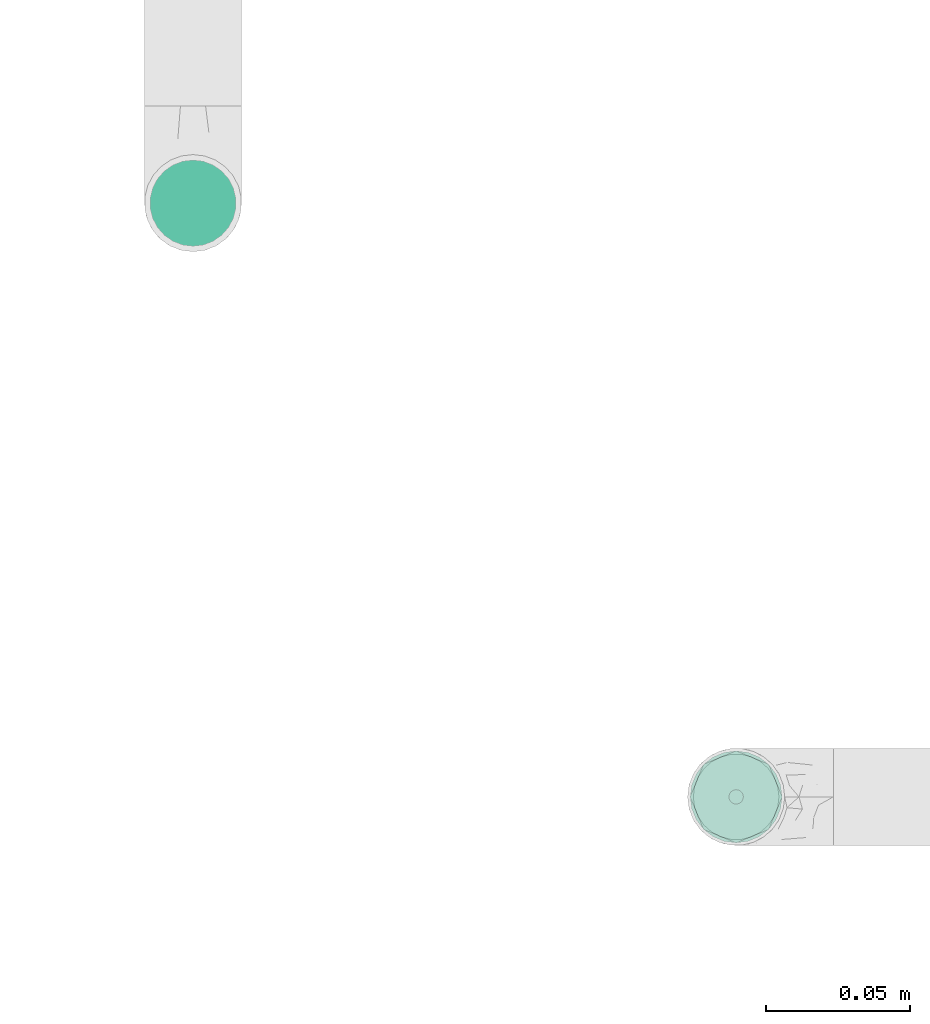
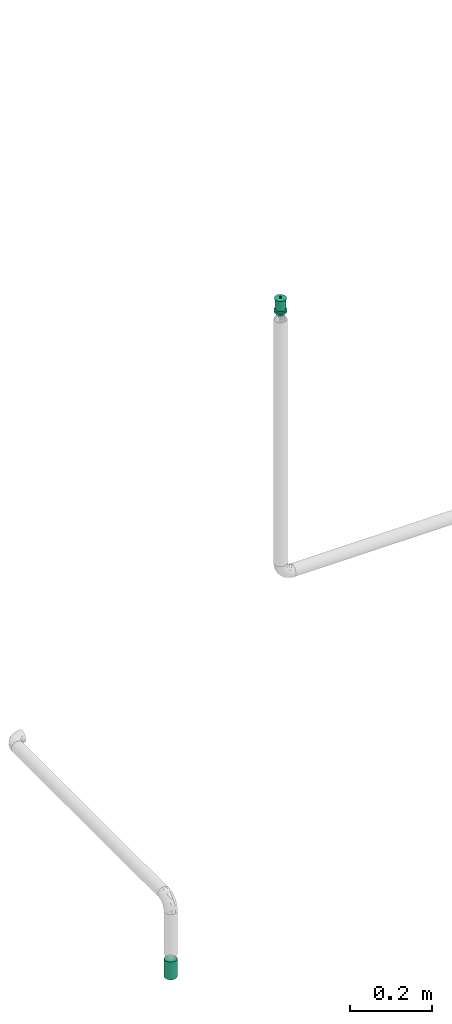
# One storey, part 24 of 94: 2 flow terminals.
"""IFC2X3 building model written with IfcOpenShell, lengths in millimetres."""

from ifc_helpers import new_model, entity, si_unit, converted_unit, derived_unit, direction, frame, origin_with_axes, place, context, subcontext, project, spatial, open_shell, surface_model, source, transform, mapped, type_object, element, save


model = new_model("IFC2X3")

# Units and contexts
model_context = context("Model", 3, precision=0.01, world=frame((0.0, 4.29681676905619e-09, 0.0)), true_north=direction((4.01073788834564e-13, 1.0)))
plan_context = context("Plan", 3, precision=0.01, world=frame((0.0, 4.29681676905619e-09, 0.0)), true_north=direction((4.01073788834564e-13, 1.0)))
body_context = subcontext(model_context, "Body", "Model", "MODEL_VIEW")
ifc_project = project(units=[converted_unit("PLANEANGLEUNIT", "DEGREE", entity("IfcPositiveLengthMeasure", 0.0174532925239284), si_unit("PLANEANGLEUNIT", "RADIAN"), dimensions=[0, 0, 0, 0, 0, 0, 0]), si_unit("AREAUNIT", "SQUARE_METRE"), si_unit("LENGTHUNIT", "METRE", prefix="MILLI"), si_unit("MASSUNIT", "GRAM", prefix="KILO"), si_unit("POWERUNIT", "WATT"), si_unit("PRESSUREUNIT", "PASCAL", prefix="KILO"), si_unit("FORCEUNIT", "NEWTON", prefix="KILO"), si_unit("ELECTRICVOLTAGEUNIT", "VOLT"), si_unit("ELECTRICCURRENTUNIT", "AMPERE"), si_unit("THERMODYNAMICTEMPERATUREUNIT", "DEGREE_CELSIUS"), si_unit("TIMEUNIT", "SECOND"), si_unit("VOLUMEUNIT", "CUBIC_METRE"), derived_unit("LINEARVELOCITYUNIT", [(si_unit("LENGTHUNIT", "METRE"), 1), (si_unit("TIMEUNIT", "SECOND"), -1)]), derived_unit("VOLUMETRICFLOWRATEUNIT", [(si_unit("VOLUMEUNIT", "CUBIC_METRE"), 1), (si_unit("TIMEUNIT", "SECOND"), -1)]), derived_unit("THERMALTRANSMITTANCEUNIT", [(si_unit("POWERUNIT", "WATT"), 1), (si_unit("THERMODYNAMICTEMPERATUREUNIT", "KELVIN"), -1), (si_unit("AREAUNIT", "SQUARE_METRE"), -1)]), derived_unit("SOUNDPRESSUREUNIT", [(si_unit("PRESSUREUNIT", "PASCAL"), 1)])], contexts=[model_context, plan_context])

# Site, building, storey
site_placement = place(None, frame((0.0, -4.29681676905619e-09, 0.0), z_axis=(0.0, 0.0, 1.0), x_axis=(1.0, 0.0, 0.0)))
site = spatial("IfcSite", under=ifc_project, at=site_placement, CompositionType="ELEMENT")
building_placement = place(site_placement, frame((0.0, 4.29681676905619e-09, 0.0), z_axis=(0.0, 0.0, 1.0), x_axis=(1.0, 0.0, 0.0)))
building = spatial("IfcBuilding", under=site, at=building_placement, Name="mc-building", CompositionType="ELEMENT")
storey_placement = place(building_placement, frame((0.0, 0.0, 210900.0), z_axis=(0.0, 0.0, 1.0), x_axis=(1.0, 0.0, 0.0)))
storey = spatial("IfcBuildingStorey", under=building, at=storey_placement, Name="Nivå F", CompositionType="ELEMENT", Elevation=210900.0)

# Flow terminals
fire_suppression_terminal_type_1 = type_object("IfcFireSuppressionTerminalType", Name="68DGR-STD-STÅENDE", PredefinedType="NOTDEFINED")
shared_shape_1 = source(origin_with_axes(), body_context, "Body", "SurfaceModel", [
    surface_model("IfcShellBasedSurfaceModel", [(3.36465, -12.55704, 51.0), (6.5, -11.25833, 51.0), (9.19239, -9.19239, 51.0), (12.55704, -3.36465, 51.0), (-11.25833, -6.5, 51.0), (11.25833, -6.5, 51.0), (-13.0, 0.0, 51.0), (0.0, -13.0, 51.0), (-6.5, -11.25833, 51.0), (-3.36465, -12.55704, 51.0), (-9.19239, -9.19239, 51.0), (-12.55704, -3.36465, 51.0), (13.0, 0.0, 51.0), (12.55704, 3.36465, 51.0), (11.25833, 6.5, 51.0), (9.19239, 9.19239, 51.0), (6.5, 11.25833, 51.0), (3.36465, 12.55704, 51.0), (0.0, 13.0, 51.0), (-3.36465, 12.55704, 51.0), (-12.55704, 3.36465, 51.0), (-9.19239, 9.19239, 51.0), (-11.25833, 6.5, 51.0), (-6.5, 11.25833, 51.0), (0.0, 13.0, 21.14766), (3.36465, 12.55704, 21.14766), (6.5, 11.25833, 21.14766), (-3.36465, 12.55704, 21.14766), (9.19239, 9.19239, 21.14766), (11.25833, 6.5, 21.14766), (12.55704, 3.36465, 21.14766), (-12.55704, 3.36465, 21.14766), (-11.25833, -6.5, 21.14766), (-9.19239, 9.19239, 21.14766), (-6.5, 11.25833, 21.14766), (-11.25833, 6.5, 21.14766), (-13.0, 0.0, 21.14766), (12.55704, -3.36465, 21.14766), (9.19239, -9.19239, 21.14766), (11.25833, -6.5, 21.14766), (6.5, -11.25833, 21.14766), (3.36465, -12.55704, 21.14766), (-6.5, -11.25833, 21.14766), (-9.19239, -9.19239, 21.14766), (-12.55704, -3.36465, 21.14766), (0.0, -13.0, 21.14766), (-3.36465, -12.55704, 21.14766), (13.0, 0.0, 21.14766), (7.24444, -1.94114, 0.1), (1.94114, -7.24444, 0.1), (3.75, -6.49519, 0.1), (5.3033, -5.3033, 0.1), (-5.3033, -5.3033, 0.1), (6.49519, -3.75, 0.1), (5.3033, 5.3033, 0.1), (0.0, -7.5, 0.1), (-3.75, -6.49519, 0.1), (-1.94114, -7.24444, 0.1), (-7.24444, -1.94114, 0.1), (-6.49519, -3.75, 0.1), (-7.24444, 1.94114, 0.1), (7.5, 0.0, 0.1), (6.49519, 3.75, 0.1), (-6.49519, 3.75, 0.1), (1.94114, 7.24444, 0.1), (0.0, 7.5, 0.1), (3.75, 6.49519, 0.1), (-7.5, 0.0, 0.1), (-5.3033, 5.3033, 0.1), (-1.94114, 7.24444, 0.1), (-3.75, 6.49519, 0.1), (7.24444, 1.94114, 0.1), (1.94114, 7.24444, -0.1), (-6.49519, 3.75, -0.1), (0.0, 7.5, -0.1), (5.3033, 5.3033, -0.1), (3.75, 6.49519, -0.1), (6.49519, 3.75, -0.1), (7.24444, 1.94114, -0.1), (-1.94114, 7.24444, -0.1), (-5.3033, 5.3033, -0.1), (-3.75, 6.49519, -0.1), (-7.24444, 1.94114, -0.1), (-7.24444, -1.94114, -0.1), (-7.5, 0.0, -0.1), (7.5, 0.0, -0.1), (7.24444, -1.94114, -0.1), (-5.3033, -5.3033, -0.1), (1.94114, -7.24444, -0.1), (6.49519, -3.75, -0.1), (5.3033, -5.3033, -0.1), (3.75, -6.49519, -0.1), (-6.49519, -3.75, -0.1), (-3.75, -6.49519, -0.1), (0.0, -7.5, -0.1), (-1.94114, -7.24444, -0.1), (0.0, -2.5, 51.0), (-2.5, 0.0, 51.0), (0.0, 2.5, 51.0), (2.5, 0.0, 51.0), (0.0, -16.0, 53.0), (11.31371, -11.31371, 53.0), (-11.31371, -11.31371, 53.0), (-16.0, 0.0, 53.0), (16.0, 0.0, 53.0), (11.31371, 11.31371, 53.0), (0.0, 16.0, 53.0), (-11.31371, 11.31371, 53.0), (1.25, -2.16506, 57.0), (0.0, -2.5, 57.0), (0.64705, -2.41481, 57.0), (2.41481, -0.64705, 57.0), (1.76777, -1.76777, 57.0), (-2.41481, -0.64705, 57.0), (-2.5, 0.0, 57.0), (2.16506, -1.25, 57.0), (-1.25, -2.16506, 57.0), (-0.64705, -2.41481, 57.0), (-1.76777, -1.76777, 57.0), (-2.16506, -1.25, 57.0), (2.5, 0.0, 57.0), (2.41481, 0.64705, 57.0), (2.16506, 1.25, 57.0), (1.76777, 1.76777, 57.0), (0.64705, 2.41481, 57.0), (1.25, 2.16506, 57.0), (-1.76777, 1.76777, 57.0), (0.0, 2.5, 57.0), (-2.16506, 1.25, 57.0), (-2.41481, 0.64705, 57.0), (-0.64705, 2.41481, 57.0), (-1.25, 2.16506, 57.0), (1.25, 2.16506, 51.0), (1.76777, 1.76777, 51.0), (1.15, 1.99186, 51.0), (0.59528, 2.22163, 51.0), (0.64705, 2.41481, 51.0), (0.0, 2.3, 51.0), (1.62635, 1.62635, 51.0), (2.41481, 0.64705, 51.0), (2.3, 0.0, 51.0), (2.22163, 0.59528, 51.0), (2.16506, 1.25, 51.0), (1.99186, 1.15, 51.0), (-0.59528, 2.22163, 51.0), (-0.64705, 2.41481, 51.0), (-1.15, 1.99186, 51.0), (-1.76777, 1.76777, 51.0), (-1.25, 2.16506, 51.0), (-1.62635, 1.62635, 51.0), (-1.99186, 1.15, 51.0), (-2.16506, 1.25, 51.0), (-2.22163, 0.59528, 51.0), (-2.41481, 0.64705, 51.0), (-2.3, 0.0, 51.0), (2.41481, -0.64705, 51.0), (2.22163, -0.59528, 51.0), (1.99186, -1.15, 51.0), (2.16506, -1.25, 51.0), (1.62635, -1.62635, 51.0), (1.76777, -1.76777, 51.0), (1.25, -2.16506, 51.0), (1.15, -1.99186, 51.0), (0.59528, -2.22163, 51.0), (0.64705, -2.41481, 51.0), (0.0, -2.3, 51.0), (-2.16506, -1.25, 51.0), (-1.99186, -1.15, 51.0), (-1.76777, -1.76777, 51.0), (-1.62635, -1.62635, 51.0), (-2.41481, -0.64705, 51.0), (-2.22163, -0.59528, 51.0), (-0.59528, -2.22163, 51.0), (-0.64705, -2.41481, 51.0), (-1.15, -1.99186, 51.0), (-1.25, -2.16506, 51.0), (1.62635, -1.62635, 56.8), (1.15, -1.99186, 56.8), (0.59528, -2.22163, 56.8), (0.0, -2.3, 56.8), (2.22163, 0.59528, 56.8), (1.99186, -1.15, 56.8), (2.22163, -0.59528, 56.8), (-0.59528, -2.22163, 56.8), (-1.15, -1.99186, 56.8), (-1.62635, -1.62635, 56.8), (-1.99186, -1.15, 56.8), (-2.22163, -0.59528, 56.8), (-1.99186, 1.15, 56.8), (2.3, 0.0, 56.8), (1.62635, 1.62635, 56.8), (1.99186, 1.15, 56.8), (1.15, 1.99186, 56.8), (0.0, 2.3, 56.8), (0.59528, 2.22163, 56.8), (-2.22163, 0.59528, 56.8), (-2.3, 0.0, 56.8), (-1.15, 1.99186, 56.8), (-0.59528, 2.22163, 56.8), (-1.62635, 1.62635, 56.8), (4.1411, -15.45481, 19.0), (8.0, -13.85641, 19.0), (11.31371, -11.31371, 19.0), (-8.0, -13.85641, 19.0), (15.45481, -4.1411, 19.0), (16.0, 0.0, 19.0), (13.85641, -8.0, 19.0), (0.0, -16.0, 19.0), (-4.1411, -15.45481, 19.0), (-13.85641, -8.0, 19.0), (-11.31371, -11.31371, 19.0), (-15.45481, -4.1411, 19.0), (15.45481, 4.1411, 19.0), (13.85641, 8.0, 19.0), (11.31371, 11.31371, 19.0), (-4.1411, 15.45481, 19.0), (8.0, 13.85641, 19.0), (4.1411, 15.45481, 19.0), (0.0, 16.0, 19.0), (-13.85641, 8.0, 19.0), (-15.45481, 4.1411, 19.0), (-16.0, 0.0, 19.0), (-11.31371, 11.31371, 19.0), (-8.0, 13.85641, 19.0), (0.0, 16.0, 13.0), (4.1411, 15.45481, 13.0), (8.0, 13.85641, 13.0), (-4.1411, 15.45481, 13.0), (11.31371, 11.31371, 13.0), (13.85641, 8.0, 13.0), (15.45481, 4.1411, 13.0), (-15.45481, -4.1411, 13.0), (-11.31371, 11.31371, 13.0), (-8.0, 13.85641, 13.0), (-13.85641, 8.0, 13.0), (-15.45481, 4.1411, 13.0), (-16.0, 0.0, 13.0), (4.1411, -15.45481, 13.0), (16.0, 0.0, 13.0), (15.45481, -4.1411, 13.0), (13.85641, -8.0, 13.0), (11.31371, -11.31371, 13.0), (8.0, -13.85641, 13.0), (-8.0, -13.85641, 13.0), (-13.85641, -8.0, 13.0), (-11.31371, -11.31371, 13.0), (0.0, -16.0, 13.0), (-4.1411, -15.45481, 13.0), (7.24444, -1.94114, 13.0), (1.94114, -7.24444, 13.0), (3.75, -6.49519, 13.0), (5.3033, -5.3033, 13.0), (-5.3033, -5.3033, 13.0), (6.49519, -3.75, 13.0), (5.3033, 5.3033, 13.0), (0.0, -7.5, 13.0), (-3.75, -6.49519, 13.0), (-1.94114, -7.24444, 13.0), (-7.24444, -1.94114, 13.0), (-6.49519, -3.75, 13.0), (-7.24444, 1.94114, 13.0), (7.5, 0.0, 13.0), (6.49519, 3.75, 13.0), (-6.49519, 3.75, 13.0), (1.94114, 7.24444, 13.0), (0.0, 7.5, 13.0), (3.75, 6.49519, 13.0), (-7.5, 0.0, 13.0), (-5.3033, 5.3033, 13.0), (-1.94114, 7.24444, 13.0), (-3.75, 6.49519, 13.0), (7.24444, 1.94114, 13.0), (3.75, 6.49519, 0.0), (5.3033, 5.3033, 0.0), (3.65, 6.32199, 0.0), (1.88938, 7.05126, 0.0), (0.0, 7.3, 0.0), (1.94114, 7.24444, 0.0), (0.0, 7.5, 0.0), (5.16188, 5.16188, 0.0), (7.24444, 1.94114, 0.0), (7.3, 0.0, 0.0), (7.05126, 1.88938, 0.0), (7.5, 0.0, 0.0), (6.49519, 3.75, 0.0), (6.32199, 3.65, 0.0), (-1.88938, 7.05126, 0.0), (-1.94114, 7.24444, 0.0), (-3.65, 6.32199, 0.0), (-5.3033, 5.3033, 0.0), (-3.75, 6.49519, 0.0), (-5.16188, 5.16188, 0.0), (-6.32199, 3.65, 0.0), (-6.49519, 3.75, 0.0), (-7.05126, 1.88938, 0.0), (-7.24444, 1.94114, 0.0), (-7.3, 0.0, 0.0), (-7.5, 0.0, 0.0), (7.24444, -1.94114, 0.0), (7.05126, -1.88938, 0.0), (6.32199, -3.65, 0.0), (6.49519, -3.75, 0.0), (5.16188, -5.16188, 0.0), (5.3033, -5.3033, 0.0), (3.75, -6.49519, 0.0), (3.65, -6.32199, 0.0), (1.88938, -7.05126, 0.0), (1.94114, -7.24444, 0.0), (0.0, -7.3, 0.0), (0.0, -7.5, 0.0), (-6.49519, -3.75, 0.0), (-6.32199, -3.65, 0.0), (-5.3033, -5.3033, 0.0), (-5.16188, -5.16188, 0.0), (-7.24444, -1.94114, 0.0), (-7.05126, -1.88938, 0.0), (-1.88938, -7.05126, 0.0), (-1.94114, -7.24444, 0.0), (-3.65, -6.32199, 0.0), (-3.75, -6.49519, 0.0), (1.88938, -7.05126, 12.8), (0.0, -7.3, 12.8), (3.65, -6.32199, 12.8), (5.16188, -5.16188, 12.8), (6.32199, -3.65, 12.8), (7.05126, 1.88938, 12.8), (7.05126, -1.88938, 12.8), (-5.16188, -5.16188, 12.8), (-1.88938, -7.05126, 12.8), (-3.65, -6.32199, 12.8), (-6.32199, -3.65, 12.8), (-7.05126, -1.88938, 12.8), (0.0, 7.3, 12.8), (7.3, 0.0, 12.8), (6.32199, 3.65, 12.8), (5.16188, 5.16188, 12.8), (3.65, 6.32199, 12.8), (1.88938, 7.05126, 12.8), (-6.32199, 3.65, 12.8), (-7.05126, 1.88938, 12.8), (-7.3, 0.0, 12.8), (-3.65, 6.32199, 12.8), (-1.88938, 7.05126, 12.8), (-5.16188, 5.16188, 12.8)], [open_shell([[[0, 1, 2]], [[0, 2, 3]], [[0, 3, 4]], [[3, 2, 5]], [[6, 4, 3]], [[7, 8, 9]], [[7, 0, 8]], [[8, 4, 10]], [[0, 4, 8]], [[4, 6, 11]], [[6, 3, 12]], [[13, 14, 15]], [[6, 13, 15]], [[16, 17, 18]], [[15, 16, 19]], [[18, 19, 16]], [[20, 21, 22]], [[20, 6, 15]], [[21, 19, 23]], [[19, 21, 20]], [[15, 19, 20]], [[13, 6, 12]], [[24, 25, 26]], [[27, 24, 26]], [[28, 29, 30]], [[26, 28, 31]], [[28, 32, 31]], [[27, 33, 34]], [[33, 27, 31]], [[33, 31, 35]], [[27, 26, 31]], [[31, 32, 36]], [[32, 28, 30]], [[32, 30, 37]], [[38, 37, 39]], [[38, 40, 41]], [[38, 41, 37]], [[32, 37, 41]], [[32, 42, 43]], [[44, 36, 32]], [[42, 45, 46]], [[42, 32, 41]], [[45, 42, 41]], [[30, 47, 37]], [[4, 32, 43]], [[8, 42, 46]], [[43, 42, 10]], [[9, 46, 45]], [[36, 11, 6]], [[11, 36, 44]], [[11, 44, 4]], [[44, 32, 4]], [[43, 10, 4]], [[8, 10, 42]], [[46, 9, 8]], [[45, 7, 9]], [[0, 41, 40]], [[38, 1, 40]], [[5, 39, 37]], [[38, 39, 2]], [[3, 37, 47]], [[41, 0, 7]], [[40, 1, 0]], [[38, 2, 1]], [[39, 5, 2]], [[3, 5, 37]], [[47, 12, 3]], [[41, 7, 45]], [[30, 13, 47]], [[29, 14, 30]], [[25, 24, 17]], [[15, 29, 28]], [[30, 14, 13]], [[13, 12, 47]], [[16, 26, 17]], [[16, 15, 28]], [[26, 25, 17]], [[15, 14, 29]], [[28, 26, 16]], [[24, 18, 17]], [[19, 27, 34]], [[33, 23, 34]], [[22, 35, 31]], [[33, 35, 21]], [[20, 31, 36]], [[27, 19, 18]], [[34, 23, 19]], [[33, 21, 23]], [[35, 22, 21]], [[20, 22, 31]], [[36, 6, 20]], [[27, 18, 24]], [[48, 49, 50]], [[48, 50, 51]], [[49, 48, 52]], [[48, 51, 53]], [[54, 52, 48]], [[55, 56, 57]], [[56, 55, 52]], [[52, 58, 59]], [[52, 55, 49]], [[52, 60, 58]], [[54, 48, 61]], [[62, 54, 61]], [[54, 63, 52]], [[64, 65, 54]], [[64, 54, 66]], [[63, 54, 65]], [[63, 60, 52]], [[67, 58, 60]], [[68, 69, 70]], [[69, 68, 63]], [[69, 63, 65]], [[71, 62, 61]], [[72, 73, 74]], [[75, 72, 76]], [[75, 77, 78]], [[72, 75, 73]], [[78, 73, 75]], [[79, 80, 81]], [[80, 79, 73]], [[74, 73, 79]], [[78, 82, 73]], [[82, 83, 84]], [[82, 78, 85]], [[86, 87, 85]], [[88, 86, 89]], [[90, 91, 88]], [[90, 88, 89]], [[87, 86, 88]], [[83, 87, 92]], [[83, 85, 87]], [[93, 94, 95]], [[94, 93, 87]], [[88, 94, 87]], [[85, 83, 82]], [[83, 58, 84]], [[92, 59, 83]], [[56, 87, 93]], [[92, 87, 52]], [[57, 93, 95]], [[83, 59, 58]], [[58, 67, 84]], [[57, 56, 93]], [[52, 87, 56]], [[52, 59, 92]], [[55, 57, 95]], [[95, 94, 55]], [[88, 49, 94]], [[91, 50, 88]], [[53, 90, 89]], [[91, 90, 51]], [[48, 89, 86]], [[91, 51, 50]], [[50, 49, 88]], [[61, 48, 86]], [[53, 89, 48]], [[53, 51, 90]], [[85, 61, 86]], [[94, 49, 55]], [[78, 71, 85]], [[77, 62, 78]], [[66, 75, 76]], [[77, 75, 54]], [[64, 76, 72]], [[78, 62, 71]], [[71, 61, 85]], [[64, 66, 76]], [[54, 75, 66]], [[54, 62, 77]], [[65, 64, 72]], [[72, 74, 65]], [[79, 69, 74]], [[81, 70, 79]], [[63, 80, 73]], [[81, 80, 68]], [[60, 73, 82]], [[81, 68, 70]], [[70, 69, 79]], [[67, 60, 82]], [[63, 73, 60]], [[63, 68, 80]], [[84, 67, 82]], [[74, 69, 65]], [[96, 97, 98]], [[98, 99, 96]], [[100, 101, 102]], [[103, 102, 101]], [[101, 104, 103]], [[104, 105, 106]], [[107, 103, 106]], [[106, 103, 104]], [[99, 98, 105]], [[105, 104, 99]], [[98, 106, 105]], [[98, 107, 106]], [[107, 98, 97]], [[103, 107, 97]], [[97, 96, 102]], [[102, 103, 97]], [[96, 100, 102]], [[96, 101, 100]], [[101, 96, 99]], [[104, 101, 99]], [[108, 109, 110]], [[111, 108, 112]], [[113, 108, 114]], [[111, 112, 115]], [[108, 111, 114]], [[109, 116, 117]], [[116, 109, 118]], [[118, 113, 119]], [[118, 109, 108]], [[108, 113, 118]], [[111, 120, 114]], [[121, 122, 123]], [[114, 121, 123]], [[114, 123, 124]], [[124, 123, 125]], [[126, 124, 127]], [[124, 128, 129]], [[129, 114, 124]], [[126, 130, 131]], [[128, 124, 126]], [[130, 126, 127]], [[121, 114, 120]], [[132, 133, 134]], [[132, 134, 135]], [[136, 135, 137]], [[135, 136, 132]], [[136, 137, 98]], [[134, 133, 138]], [[139, 140, 141]], [[140, 139, 99]], [[139, 141, 142]], [[138, 142, 143]], [[142, 138, 133]], [[143, 142, 141]], [[98, 144, 145]], [[98, 137, 144]], [[145, 144, 146]], [[147, 148, 149]], [[146, 148, 145]], [[149, 148, 146]], [[150, 151, 147]], [[151, 150, 152]], [[150, 147, 149]], [[153, 152, 154]], [[152, 153, 151]], [[153, 154, 97]], [[99, 155, 156]], [[156, 155, 157]], [[157, 158, 159]], [[158, 157, 155]], [[159, 158, 160]], [[160, 161, 162]], [[162, 161, 163]], [[163, 164, 165]], [[164, 163, 161]], [[165, 164, 96]], [[162, 159, 160]], [[166, 167, 168]], [[168, 167, 169]], [[167, 166, 170]], [[97, 171, 170]], [[170, 171, 167]], [[97, 154, 171]], [[172, 96, 173]], [[172, 173, 174]], [[169, 175, 168]], [[175, 169, 174]], [[175, 174, 173]], [[165, 96, 172]], [[156, 140, 99]], [[170, 113, 97]], [[166, 119, 170]], [[116, 168, 175]], [[166, 168, 118]], [[117, 175, 173]], [[170, 119, 113]], [[113, 114, 97]], [[117, 116, 175]], [[118, 168, 116]], [[118, 119, 166]], [[109, 117, 173]], [[173, 96, 109]], [[164, 110, 96]], [[161, 108, 164]], [[115, 160, 158]], [[161, 160, 112]], [[111, 158, 155]], [[161, 112, 108]], [[108, 110, 164]], [[120, 111, 155]], [[115, 158, 111]], [[115, 112, 160]], [[99, 120, 155]], [[96, 110, 109]], [[139, 121, 99]], [[142, 122, 139]], [[125, 133, 132]], [[142, 133, 123]], [[124, 132, 136]], [[139, 122, 121]], [[121, 120, 99]], [[124, 125, 132]], [[123, 133, 125]], [[123, 122, 142]], [[127, 124, 136]], [[136, 98, 127]], [[145, 130, 98]], [[148, 131, 145]], [[128, 147, 151]], [[148, 147, 126]], [[129, 151, 153]], [[148, 126, 131]], [[131, 130, 145]], [[114, 129, 153]], [[128, 151, 129]], [[128, 126, 147]], [[97, 114, 153]], [[98, 130, 127]], [[176, 177, 178]], [[176, 178, 179]], [[180, 176, 179]], [[181, 176, 182]], [[180, 182, 176]], [[183, 184, 179]], [[185, 179, 184]], [[186, 187, 185]], [[185, 187, 188]], [[179, 185, 188]], [[189, 182, 180]], [[190, 191, 180]], [[192, 190, 180]], [[193, 194, 192]], [[180, 193, 192]], [[188, 193, 180]], [[195, 188, 196]], [[196, 188, 187]], [[197, 198, 199]], [[188, 199, 198]], [[188, 198, 193]], [[180, 179, 188]], [[154, 187, 171]], [[171, 186, 167]], [[174, 169, 184]], [[185, 169, 167]], [[172, 174, 183]], [[187, 186, 171]], [[154, 196, 187]], [[174, 184, 183]], [[184, 169, 185]], [[167, 186, 185]], [[172, 183, 179]], [[179, 165, 172]], [[165, 178, 163]], [[163, 177, 162]], [[157, 159, 181]], [[176, 159, 162]], [[156, 157, 182]], [[177, 176, 162]], [[163, 178, 177]], [[156, 182, 189]], [[182, 157, 181]], [[159, 176, 181]], [[156, 189, 140]], [[179, 178, 165]], [[140, 180, 141]], [[141, 191, 143]], [[134, 138, 192]], [[190, 138, 143]], [[135, 134, 194]], [[180, 191, 141]], [[140, 189, 180]], [[134, 192, 194]], [[192, 138, 190]], [[143, 191, 190]], [[135, 194, 193]], [[193, 137, 135]], [[137, 198, 144]], [[144, 197, 146]], [[150, 149, 188]], [[199, 149, 146]], [[152, 150, 195]], [[197, 199, 146]], [[144, 198, 197]], [[152, 195, 196]], [[195, 150, 188]], [[149, 199, 188]], [[152, 196, 154]], [[193, 198, 137]], [[200, 201, 202]], [[203, 200, 202]], [[204, 205, 202]], [[204, 202, 206]], [[203, 202, 205]], [[207, 203, 208]], [[207, 200, 203]], [[203, 209, 210]], [[209, 203, 211]], [[205, 211, 203]], [[205, 212, 211]], [[212, 213, 214]], [[215, 212, 214]], [[216, 217, 218]], [[214, 216, 215]], [[218, 215, 216]], [[211, 219, 220]], [[221, 211, 220]], [[222, 215, 223]], [[215, 222, 219]], [[219, 211, 215]], [[211, 212, 215]], [[224, 225, 226]], [[227, 224, 226]], [[228, 229, 230]], [[227, 226, 228]], [[227, 228, 231]], [[227, 232, 233]], [[232, 227, 234]], [[234, 231, 235]], [[231, 234, 227]], [[235, 231, 236]], [[228, 230, 231]], [[237, 238, 239]], [[237, 239, 240]], [[241, 242, 237]], [[241, 237, 240]], [[238, 237, 243]], [[244, 243, 245]], [[243, 244, 231]], [[243, 246, 247]], [[243, 231, 238]], [[237, 246, 243]], [[238, 231, 230]], [[231, 211, 236]], [[244, 209, 231]], [[203, 245, 243]], [[244, 245, 210]], [[208, 243, 247]], [[231, 209, 211]], [[211, 221, 236]], [[208, 203, 243]], [[210, 245, 203]], [[210, 209, 244]], [[207, 208, 247]], [[247, 246, 207]], [[237, 200, 246]], [[242, 201, 237]], [[206, 241, 240]], [[242, 241, 202]], [[204, 240, 239]], [[242, 202, 201]], [[201, 200, 237]], [[205, 204, 239]], [[206, 240, 204]], [[206, 202, 241]], [[238, 205, 239]], [[246, 200, 207]], [[230, 212, 238]], [[229, 213, 230]], [[216, 228, 226]], [[229, 228, 214]], [[217, 226, 225]], [[230, 213, 212]], [[212, 205, 238]], [[217, 216, 226]], [[214, 228, 216]], [[214, 213, 229]], [[218, 217, 225]], [[225, 224, 218]], [[227, 215, 224]], [[233, 223, 227]], [[219, 232, 234]], [[233, 232, 222]], [[220, 234, 235]], [[233, 222, 223]], [[223, 215, 227]], [[221, 220, 235]], [[219, 234, 220]], [[219, 222, 232]], [[236, 221, 235]], [[224, 215, 218]], [[248, 249, 250]], [[248, 250, 251]], [[249, 248, 252]], [[248, 251, 253]], [[254, 252, 248]], [[255, 256, 257]], [[256, 255, 252]], [[252, 258, 259]], [[252, 255, 249]], [[252, 260, 258]], [[254, 248, 261]], [[262, 254, 261]], [[254, 263, 252]], [[264, 265, 254]], [[264, 254, 266]], [[263, 254, 265]], [[263, 260, 252]], [[267, 258, 260]], [[268, 269, 270]], [[269, 268, 263]], [[269, 263, 265]], [[271, 262, 261]], [[272, 273, 274]], [[272, 274, 275]], [[276, 277, 275]], [[277, 276, 278]], [[275, 277, 272]], [[274, 273, 279]], [[280, 281, 282]], [[281, 280, 283]], [[280, 282, 284]], [[279, 284, 285]], [[284, 279, 273]], [[285, 284, 282]], [[278, 286, 287]], [[287, 286, 288]], [[289, 290, 291]], [[288, 290, 287]], [[288, 291, 290]], [[278, 276, 286]], [[292, 293, 289]], [[293, 292, 294]], [[292, 289, 291]], [[295, 294, 296]], [[294, 295, 293]], [[295, 296, 297]], [[283, 298, 299]], [[299, 298, 300]], [[300, 301, 302]], [[301, 300, 298]], [[302, 301, 303]], [[303, 304, 305]], [[305, 304, 306]], [[306, 307, 308]], [[307, 306, 304]], [[308, 307, 309]], [[305, 302, 303]], [[310, 311, 312]], [[312, 311, 313]], [[311, 310, 314]], [[297, 315, 314]], [[314, 315, 311]], [[297, 296, 315]], [[316, 309, 317]], [[316, 317, 318]], [[313, 319, 312]], [[313, 318, 319]], [[319, 318, 317]], [[308, 309, 316]], [[299, 281, 283]], [[314, 258, 297]], [[310, 259, 314]], [[256, 312, 319]], [[310, 312, 252]], [[257, 319, 317]], [[314, 259, 258]], [[258, 267, 297]], [[257, 256, 319]], [[252, 312, 256]], [[252, 259, 310]], [[255, 257, 317]], [[317, 309, 255]], [[307, 249, 309]], [[304, 250, 307]], [[253, 303, 301]], [[304, 303, 251]], [[248, 301, 298]], [[304, 251, 250]], [[250, 249, 307]], [[261, 248, 298]], [[253, 301, 248]], [[253, 251, 303]], [[283, 261, 298]], [[309, 249, 255]], [[280, 271, 283]], [[284, 262, 280]], [[266, 273, 272]], [[284, 273, 254]], [[264, 272, 277]], [[280, 262, 271]], [[271, 261, 283]], [[264, 266, 272]], [[254, 273, 266]], [[254, 262, 284]], [[265, 264, 277]], [[277, 278, 265]], [[287, 269, 278]], [[290, 270, 287]], [[263, 289, 293]], [[290, 289, 268]], [[260, 293, 295]], [[290, 268, 270]], [[270, 269, 287]], [[267, 260, 295]], [[263, 293, 260]], [[263, 268, 289]], [[297, 267, 295]], [[278, 269, 265]], [[320, 321, 322]], [[323, 322, 324]], [[325, 326, 322]], [[324, 322, 326]], [[322, 327, 325]], [[328, 329, 321]], [[327, 321, 329]], [[330, 331, 327]], [[322, 321, 327]], [[331, 332, 327]], [[326, 325, 333]], [[334, 325, 332]], [[335, 334, 336]], [[332, 337, 336]], [[334, 332, 336]], [[331, 338, 332]], [[339, 338, 340]], [[340, 338, 331]], [[341, 342, 343]], [[332, 338, 343]], [[332, 343, 342]], [[332, 325, 327]], [[296, 331, 315]], [[315, 330, 311]], [[318, 313, 329]], [[327, 313, 311]], [[316, 318, 328]], [[331, 330, 315]], [[296, 340, 331]], [[318, 329, 328]], [[329, 313, 327]], [[311, 330, 327]], [[316, 328, 321]], [[321, 308, 316]], [[308, 320, 306]], [[306, 322, 305]], [[300, 302, 324]], [[323, 302, 305]], [[299, 300, 326]], [[322, 323, 305]], [[306, 320, 322]], [[299, 326, 333]], [[326, 300, 324]], [[302, 323, 324]], [[299, 333, 281]], [[321, 320, 308]], [[281, 325, 282]], [[282, 334, 285]], [[274, 279, 336]], [[335, 279, 285]], [[275, 274, 337]], [[325, 334, 282]], [[281, 333, 325]], [[274, 336, 337]], [[336, 279, 335]], [[285, 334, 335]], [[275, 337, 332]], [[332, 276, 275]], [[276, 342, 286]], [[286, 341, 288]], [[292, 291, 338]], [[343, 291, 288]], [[294, 292, 339]], [[341, 343, 288]], [[286, 342, 341]], [[294, 339, 340]], [[339, 292, 338]], [[291, 343, 338]], [[294, 340, 296]], [[332, 342, 276]]])]),
])
flow_terminal_1_placement = place(storey_placement, frame((716188.9668, 435194.37907, 4367.0), z_axis=(0.0, 0.0, 1.0), x_axis=(1.0, 0.0, 0.0)))
element("IfcFlowTerminal", 1, at=flow_terminal_1_placement, inside=storey, type_object=fire_suppression_terminal_type_1, Name="68DGR-STD-STÅENDE", context=body_context, shape_type="MappedRepresentation", body=[
    mapped(shared_shape_1, transform((0.0, 0.0, 0.0), scale=1.0)),
])
fire_suppression_terminal_type_2 = type_object("IfcFireSuppressionTerminalType", Name="SP-15-K80-68DGR-STD-N", PredefinedType="NOTDEFINED")
shared_shape_2 = source(origin_with_axes(), body_context, "Body", "SurfaceModel", [
    surface_model("IfcShellBasedSurfaceModel", [(4.1411, -15.45481, 53.0), (8.0, -13.85641, 53.0), (11.31371, -11.31371, 53.0), (-8.0, -13.85641, 53.0), (15.45481, -4.1411, 53.0), (16.0, 0.0, 53.0), (13.85641, -8.0, 53.0), (0.0, -16.0, 53.0), (-4.1411, -15.45481, 53.0), (-13.85641, -8.0, 53.0), (-11.31371, -11.31371, 53.0), (-15.45481, -4.1411, 53.0), (15.45481, 4.1411, 53.0), (13.85641, 8.0, 53.0), (11.31371, 11.31371, 53.0), (-4.1411, 15.45481, 53.0), (8.0, 13.85641, 53.0), (4.1411, 15.45481, 53.0), (0.0, 16.0, 53.0), (-13.85641, 8.0, 53.0), (-15.45481, 4.1411, 53.0), (-16.0, 0.0, 53.0), (-11.31371, 11.31371, 53.0), (-8.0, 13.85641, 53.0), (0.0, 16.0, 0.0), (4.1411, 15.45481, 0.0), (8.0, 13.85641, 0.0), (-4.1411, 15.45481, 0.0), (11.31371, 11.31371, 0.0), (13.85641, 8.0, 0.0), (15.45481, 4.1411, 0.0), (-15.45481, -4.1411, 0.0), (-11.31371, 11.31371, 0.0), (-8.0, 13.85641, 0.0), (-13.85641, 8.0, 0.0), (-15.45481, 4.1411, 0.0), (-16.0, 0.0, 0.0), (4.1411, -15.45481, 0.0), (16.0, 0.0, 0.0), (15.45481, -4.1411, 0.0), (13.85641, -8.0, 0.0), (11.31371, -11.31371, 0.0), (8.0, -13.85641, 0.0), (-8.0, -13.85641, 0.0), (-13.85641, -8.0, 0.0), (-11.31371, -11.31371, 0.0), (0.0, -16.0, 0.0), (-4.1411, -15.45481, 0.0)], [open_shell([[[0, 1, 2]], [[3, 0, 2]], [[4, 5, 2]], [[4, 2, 6]], [[3, 2, 5]], [[7, 3, 8]], [[7, 0, 3]], [[3, 9, 10]], [[9, 3, 11]], [[5, 11, 3]], [[5, 12, 11]], [[12, 13, 14]], [[15, 12, 14]], [[16, 17, 18]], [[14, 16, 15]], [[18, 15, 16]], [[11, 19, 20]], [[21, 11, 20]], [[22, 15, 23]], [[15, 22, 19]], [[19, 11, 15]], [[11, 12, 15]], [[24, 25, 26]], [[27, 24, 26]], [[28, 29, 30]], [[27, 26, 28]], [[27, 28, 31]], [[27, 32, 33]], [[32, 27, 34]], [[34, 31, 35]], [[31, 34, 27]], [[35, 31, 36]], [[28, 30, 31]], [[37, 38, 39]], [[37, 39, 40]], [[41, 42, 37]], [[41, 37, 40]], [[38, 37, 43]], [[44, 43, 45]], [[43, 44, 31]], [[43, 46, 47]], [[43, 31, 38]], [[37, 46, 43]], [[38, 31, 30]], [[11, 31, 44]], [[45, 9, 44]], [[3, 43, 47]], [[45, 43, 10]], [[8, 47, 46]], [[31, 21, 36]], [[31, 11, 21]], [[44, 9, 11]], [[45, 10, 9]], [[3, 10, 43]], [[47, 8, 3]], [[46, 7, 8]], [[0, 37, 42]], [[41, 1, 42]], [[6, 40, 39]], [[41, 40, 2]], [[4, 39, 38]], [[37, 0, 7]], [[42, 1, 0]], [[41, 2, 1]], [[40, 6, 2]], [[4, 6, 39]], [[38, 5, 4]], [[37, 7, 46]], [[12, 38, 30]], [[13, 30, 29]], [[16, 26, 25]], [[17, 25, 24]], [[30, 13, 12]], [[12, 5, 38]], [[28, 14, 13]], [[28, 26, 14]], [[14, 26, 16]], [[25, 17, 16]], [[28, 13, 29]], [[24, 18, 17]], [[15, 27, 33]], [[32, 23, 33]], [[19, 34, 35]], [[32, 34, 22]], [[20, 35, 36]], [[27, 15, 18]], [[33, 23, 15]], [[32, 22, 23]], [[34, 19, 22]], [[20, 19, 35]], [[36, 21, 20]], [[27, 18, 24]]])]),
])
flow_terminal_2_placement = place(storey_placement, frame((716000.0, 435400.95076, 2400.0), z_axis=(0.0, 0.0, -1.0), x_axis=(-1.0, 0.0, 0.0)))
element("IfcFlowTerminal", 2, at=flow_terminal_2_placement, inside=storey, type_object=fire_suppression_terminal_type_2, Name="SP-15-K80-68DGR-STD-N", context=body_context, shape_type="MappedRepresentation", body=[
    mapped(shared_shape_2, transform((0.0, 0.0, 0.0), scale=1.0)),
])

save(model, "model.ifc")
